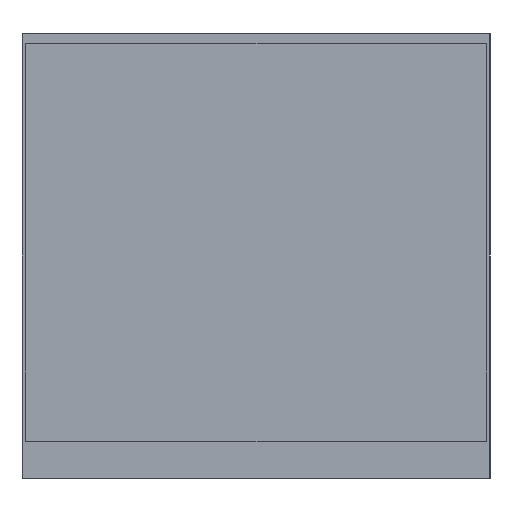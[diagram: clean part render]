
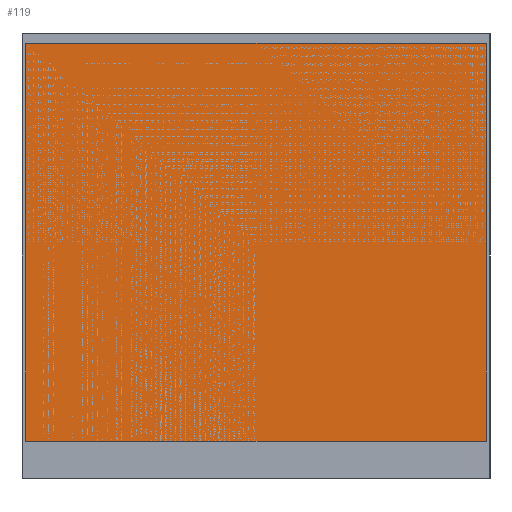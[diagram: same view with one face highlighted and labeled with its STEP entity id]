
A CAD part, left-side view. The second image highlights one B-rep face of the part: STEP entity #119.
In plain terms, the highlighted planar face has unit normal (-1, 0, 0).
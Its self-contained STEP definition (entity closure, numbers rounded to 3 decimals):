
#21 = EDGE_CURVE('',#22,#24,#26,.T.);
#22 = VERTEX_POINT('',#23);
#23 = CARTESIAN_POINT('',(-1.,-0.625,0.12));
#24 = VERTEX_POINT('',#25);
#25 = CARTESIAN_POINT('',(-1.,-0.625,1.2));
#26 = LINE('',#27,#28);
#27 = CARTESIAN_POINT('',(-1.,-0.625,0.12));
#28 = VECTOR('',#29,1.);
#29 = DIRECTION('',(0.,0.,1.));
#94 = VERTEX_POINT('',#95);
#95 = CARTESIAN_POINT('',(-1.,0.625,1.2));
#101 = EDGE_CURVE('',#102,#94,#104,.T.);
#102 = VERTEX_POINT('',#103);
#103 = CARTESIAN_POINT('',(-1.,0.625,0.12));
#104 = LINE('',#105,#106);
#105 = CARTESIAN_POINT('',(-1.,0.625,0.12));
#106 = VECTOR('',#107,1.);
#107 = DIRECTION('',(0.,0.,1.));
#119 = ADVANCED_FACE('',(#120),#136,.F.);
#120 = FACE_BOUND('',#121,.F.);
#121 = EDGE_LOOP('',(#122,#123,#129,#130));
#122 = ORIENTED_EDGE('',*,*,#101,.T.);
#123 = ORIENTED_EDGE('',*,*,#124,.T.);
#124 = EDGE_CURVE('',#94,#24,#125,.T.);
#125 = LINE('',#126,#127);
#126 = CARTESIAN_POINT('',(-1.,0.625,1.2));
#127 = VECTOR('',#128,1.);
#128 = DIRECTION('',(0.,-1.,0.));
#129 = ORIENTED_EDGE('',*,*,#21,.F.);
#130 = ORIENTED_EDGE('',*,*,#131,.F.);
#131 = EDGE_CURVE('',#102,#22,#132,.T.);
#132 = LINE('',#133,#134);
#133 = CARTESIAN_POINT('',(-1.,0.625,0.12));
#134 = VECTOR('',#135,1.);
#135 = DIRECTION('',(0.,-1.,0.));
#136 = PLANE('',#137);
#137 = AXIS2_PLACEMENT_3D('',#138,#139,#140);
#138 = CARTESIAN_POINT('',(-1.,0.625,0.12));
#139 = DIRECTION('',(1.,0.,-0.));
#140 = DIRECTION('',(0.,-1.,0.));
